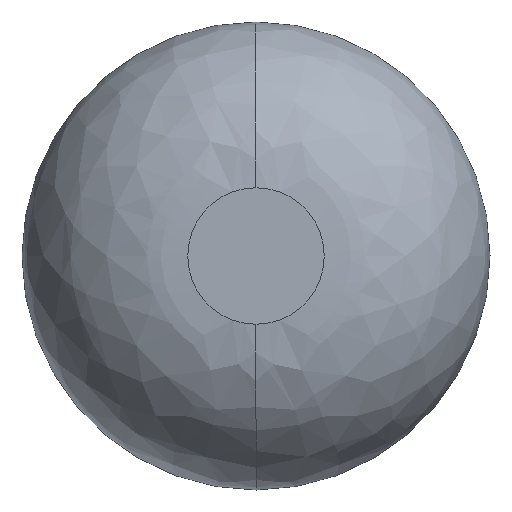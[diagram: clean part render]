
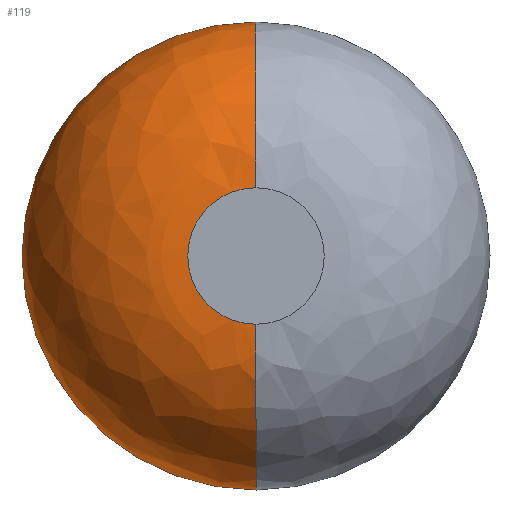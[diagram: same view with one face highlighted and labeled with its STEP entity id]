
A CAD part, left-side view. The second image highlights one B-rep face of the part: STEP entity #119.
In plain terms, the highlighted free-form (B-spline) face has degree [3, 3] with [4, 4] control points.
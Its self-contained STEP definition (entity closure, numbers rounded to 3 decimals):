
#109=(
BOUNDED_SURFACE()
B_SPLINE_SURFACE(3,3,((#446,#447,#448,#449),(#450,#451,#452,#453),(#454,
#455,#456,#457),(#458,#459,#460,#461)),.UNSPECIFIED.,.F.,.F.,.F.)
B_SPLINE_SURFACE_WITH_KNOTS((4,4),(4,4),(0.,1.),(0.,1.),.UNSPECIFIED.)
GEOMETRIC_REPRESENTATION_ITEM()
RATIONAL_B_SPLINE_SURFACE(((1.,0.333,0.333,1.),
(0.805,0.268,0.268,0.805),
(0.805,0.268,0.268,0.805),
(1.,0.333,0.333,1.)))
REPRESENTATION_ITEM('')
SURFACE()
);
#119=ADVANCED_FACE('',(#140),#109,.T.);
#140=FACE_OUTER_BOUND('',#154,.T.);
#154=EDGE_LOOP('',(#202,#203,#204,#205));
#202=ORIENTED_EDGE('',*,*,#271,.T.);
#203=ORIENTED_EDGE('',*,*,#272,.F.);
#204=ORIENTED_EDGE('',*,*,#273,.F.);
#205=ORIENTED_EDGE('',*,*,#274,.T.);
#252=VERTEX_POINT('',#439);
#253=VERTEX_POINT('',#440);
#254=VERTEX_POINT('',#442);
#255=VERTEX_POINT('',#444);
#271=EDGE_CURVE('',#252,#253,#291,.T.);
#272=EDGE_CURVE('',#254,#253,#292,.T.);
#273=EDGE_CURVE('',#255,#254,#293,.T.);
#274=EDGE_CURVE('',#255,#252,#294,.T.);
#291=CIRCLE('',#314,3.5);
#292=CIRCLE('',#315,8.5);
#293=CIRCLE('',#316,12.);
#294=CIRCLE('',#317,8.5);
#314=AXIS2_PLACEMENT_3D('',#438,#364,#365);
#315=AXIS2_PLACEMENT_3D('',#441,#366,#367);
#316=AXIS2_PLACEMENT_3D('',#443,#368,#369);
#317=AXIS2_PLACEMENT_3D('',#445,#370,#371);
#364=DIRECTION('',(1.,0.,0.));
#365=DIRECTION('',(0.,0.,-1.));
#366=DIRECTION('',(0.,-1.,0.));
#367=DIRECTION('',(0.,0.,1.));
#368=DIRECTION('',(1.,0.,0.));
#369=DIRECTION('',(0.,0.,-1.));
#370=DIRECTION('',(0.,1.,0.));
#371=DIRECTION('',(0.,0.,-1.));
#438=CARTESIAN_POINT('',(-14.5,0.,0.));
#439=CARTESIAN_POINT('',(-14.5,0.,-3.5));
#440=CARTESIAN_POINT('',(-14.5,0.,3.5));
#441=CARTESIAN_POINT('',(-6.,0.,3.5));
#442=CARTESIAN_POINT('',(-6.,0.,12.));
#443=CARTESIAN_POINT('',(-6.,0.,0.));
#444=CARTESIAN_POINT('',(-6.,0.,-12.));
#445=CARTESIAN_POINT('',(-6.,0.,-3.5));
#446=CARTESIAN_POINT('',(-6.,0.,-12.));
#447=CARTESIAN_POINT('',(-6.,24.,-12.));
#448=CARTESIAN_POINT('',(-6.,24.,12.));
#449=CARTESIAN_POINT('',(-6.,0.,12.));
#450=CARTESIAN_POINT('',(-10.979,0.,-12.));
#451=CARTESIAN_POINT('',(-10.979,24.,-12.));
#452=CARTESIAN_POINT('',(-10.979,24.,12.));
#453=CARTESIAN_POINT('',(-10.979,0.,12.));
#454=CARTESIAN_POINT('',(-14.5,0.,-8.479));
#455=CARTESIAN_POINT('',(-14.5,16.958,-8.479));
#456=CARTESIAN_POINT('',(-14.5,16.958,8.479));
#457=CARTESIAN_POINT('',(-14.5,0.,8.479));
#458=CARTESIAN_POINT('',(-14.5,0.,-3.5));
#459=CARTESIAN_POINT('',(-14.5,7.,-3.5));
#460=CARTESIAN_POINT('',(-14.5,7.,3.5));
#461=CARTESIAN_POINT('',(-14.5,0.,3.5));
